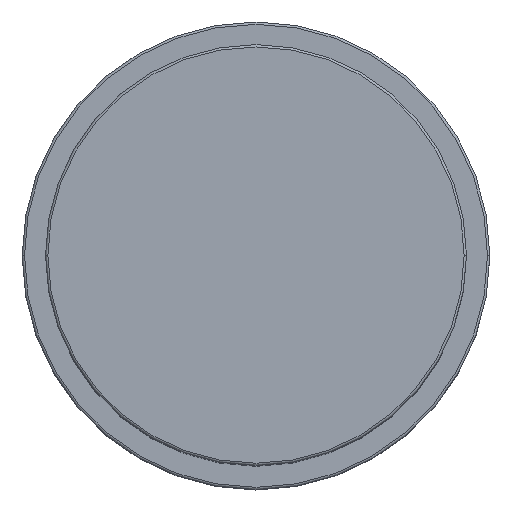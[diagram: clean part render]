
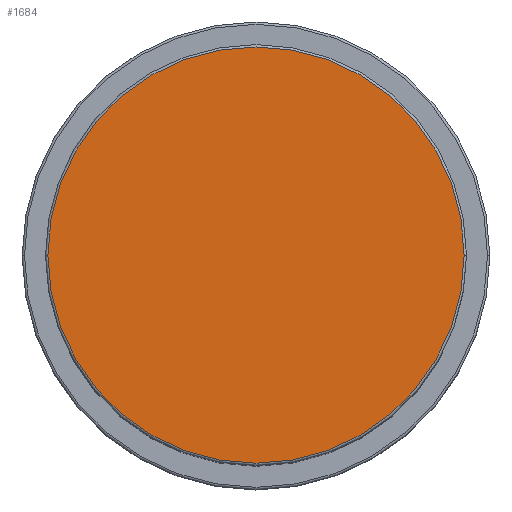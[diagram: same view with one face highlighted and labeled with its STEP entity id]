
A CAD part, top view. The second image highlights one B-rep face of the part: STEP entity #1684.
In plain terms, the highlighted planar face has unit normal (0, 0, 1).
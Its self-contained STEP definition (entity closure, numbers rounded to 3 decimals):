
#18 = CIRCLE ( 'NONE', #1417, 44.5 ) ;
#105 = ORIENTED_EDGE ( 'NONE', *, *, #209, .T. ) ;
#209 = EDGE_CURVE ( 'NONE', #425, #1671, #383, .T. ) ;
#251 = DIRECTION ( 'NONE',  ( 1., 0., 0. ) ) ;
#258 = CARTESIAN_POINT ( 'NONE',  ( 44.5, 0., 112. ) ) ;
#383 = CIRCLE ( 'NONE', #490, 44.5 ) ;
#425 = VERTEX_POINT ( 'NONE', #258 ) ;
#490 = AXIS2_PLACEMENT_3D ( 'NONE', #1190, #1578, #1059 ) ;
#518 = DIRECTION ( 'NONE',  ( 0., 0., 1. ) ) ;
#532 = CARTESIAN_POINT ( 'NONE',  ( 0., 0., 112. ) ) ;
#957 = ORIENTED_EDGE ( 'NONE', *, *, #1717, .T. ) ;
#964 = AXIS2_PLACEMENT_3D ( 'NONE', #1288, #518, #1601 ) ;
#1050 = CARTESIAN_POINT ( 'NONE',  ( -44.5, 0., 112. ) ) ;
#1059 = DIRECTION ( 'NONE',  ( 1., 0., 0. ) ) ;
#1065 = FACE_OUTER_BOUND ( 'NONE', #1608, .T. ) ;
#1185 = PLANE ( 'NONE',  #964 ) ;
#1190 = CARTESIAN_POINT ( 'NONE',  ( 0., 0., 112. ) ) ;
#1288 = CARTESIAN_POINT ( 'NONE',  ( 0., 0., 112. ) ) ;
#1417 = AXIS2_PLACEMENT_3D ( 'NONE', #532, #1761, #251 ) ;
#1578 = DIRECTION ( 'NONE',  ( 0., 0., 1. ) ) ;
#1601 = DIRECTION ( 'NONE',  ( 1., 0., 0. ) ) ;
#1608 = EDGE_LOOP ( 'NONE', ( #105, #957 ) ) ;
#1671 = VERTEX_POINT ( 'NONE', #1050 ) ;
#1684 = ADVANCED_FACE ( 'NONE', ( #1065 ), #1185, .T. ) ;
#1717 = EDGE_CURVE ( 'NONE', #1671, #425, #18, .T. ) ;
#1761 = DIRECTION ( 'NONE',  ( 0., 0., 1. ) ) ;
